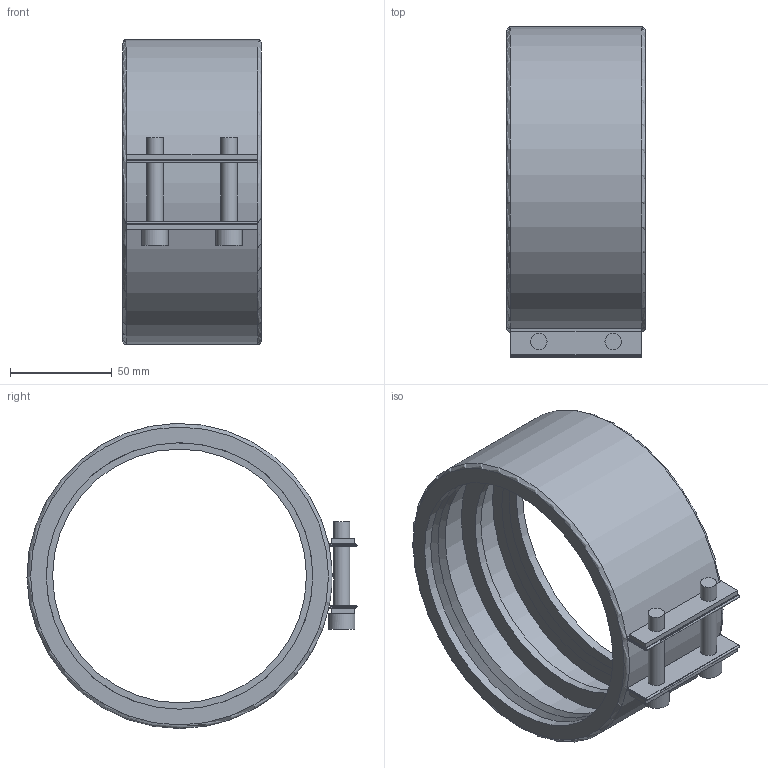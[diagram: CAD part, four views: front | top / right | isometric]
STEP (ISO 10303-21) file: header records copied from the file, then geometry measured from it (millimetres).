
FILE_DESCRIPTION( ( 'STEP AP214' ), '1' );
FILE_NAME( 'C:/Users/ilukic/Documents/ex/gebaudeentwasserung/pe/Geberit adapter clamping connector/359444.stp', '2020-03-26T18:41:20', ( '' ), ( '' ), ' ', 'PARTsolutions', ' ' );
FILE_SCHEMA( ( 'AUTOMOTIVE_DESIGN { 1 0 10303 214 1 1 1 1 }' ) );
Length unit declared in the file: millimetre
Products named in the file (1): _359444
Bounding box: 68 x 162.24 x 149.98 mm (x, y, z)
Volume: 167181.2 mm3; surface area: 115020.2 mm2
Topology: 1 solids, 1 shells, 121 faces, 309 edges, 202 vertices
Faces by surface type: plane 91, cylinder 22, cone 6, torus 2
Full cylindrical faces by diameter (mm): 8 x8, 13 x2, 124.762 x1, 131 x2, 143.954 x2
Entity records: 4378 total; most frequent: CARTESIAN_POINT 680, DIRECTION 544, ORIENTED_EDGE 536, EDGE_CURVE 268, AXIS2_PLACEMENT_3D 192, VERTEX_POINT 184, EDGE_LOOP 168, LINE 160
